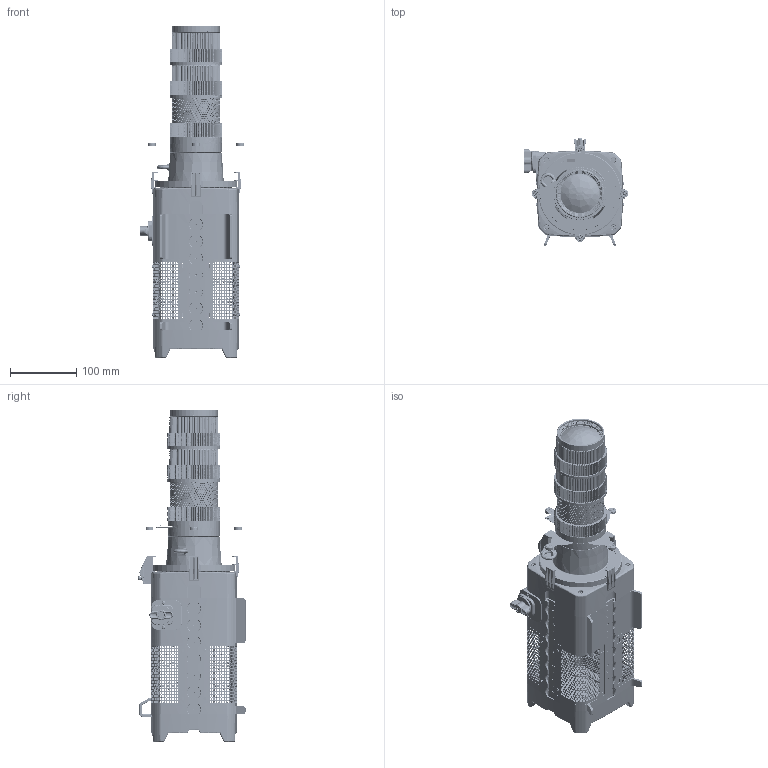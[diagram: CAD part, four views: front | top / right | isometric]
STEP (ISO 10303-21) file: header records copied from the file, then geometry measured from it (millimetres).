
FILE_DESCRIPTION(('FreeCAD Model'),'2;1');
FILE_NAME('Open CASCADE Shape Model','2023-12-14T13:02:13',( 'Lukas Balthasar Pank'),('Astera LED Technology GmbH'), 'Open CASCADE STEP processor 7.6','FreeCAD','Unknown');
FILE_SCHEMA(('AUTOMOTIVE_DESIGN { 1 0 10303 214 1 1 1 1 }'));
Length unit declared in the file: millimetre
Products named in the file (124): Astera AF80+PLS; AF80 PlutoFresnel; AF80-pard; AF80-PLS Projection Lens; AF80-PLS
Assembly tree (123 placements, depth 3):
  Astera AF80+PLS
    AF80 PlutoFresnel
      AF80-pard
      AF80-pard
      AF80-pard
      AF80-pard
      AF80-pard
      AF80-pard
      AF80-pard
      AF80-pard
      AF80-pard
      AF80-pard
      AF80-pard
      AF80-pard
      AF80-pard
      AF80-pard
      AF80-pard
      AF80-pard
      AF80-pard
      AF80-pard
      AF80-pard
      AF80-pard
      AF80-pard
      AF80-pard
      AF80-pard
      AF80-pard
      AF80-pard
      AF80-pard
      AF80-pard
      AF80-pard
      AF80-pard
      AF80-pard
      AF80-pard
      AF80-pard
      AF80-pard
      AF80-pard
      AF80-pard
      AF80-pard
      AF80-pard
      AF80-pard
      AF80-pard
      AF80-pard
      AF80-pard
      AF80-pard
      AF80-pard
      AF80-pard
      AF80-pard
      AF80-pard
      AF80-pard
      AF80-pard
      AF80-pard
      AF80-pard
      AF80-pard
      AF80-pard
      AF80-pard
      AF80-pard
      AF80-pard
      AF80-pard
      AF80-pard
      AF80-pard
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Bounding box: 158 x 161.8 x 501.95 mm (x, y, z)
Surface area: 867766.1 mm2 (no closed solid volume)
Topology: 0 solids, 121 shells, 26569 faces, 74359 edges, 47991 vertices
Faces by surface type: bspline 10871, plane 7649, cylinder 6104, cone 1881, torus 36, revolution 28
Entity records: 1387556 total; most frequent: CARTESIAN_POINT 803635, ORIENTED_EDGE 147063, DIRECTION 77943, EDGE_CURVE 74187, VERTEX_POINT 47991, B_SPLINE_CURVE_WITH_KNOTS 33517, FACE_BOUND 29340, EDGE_LOOP 29340
